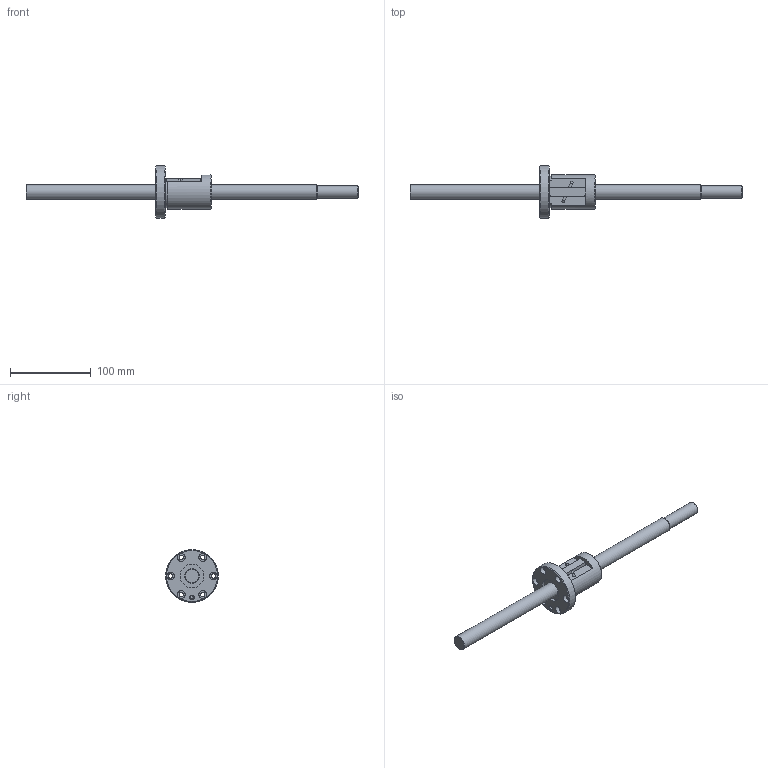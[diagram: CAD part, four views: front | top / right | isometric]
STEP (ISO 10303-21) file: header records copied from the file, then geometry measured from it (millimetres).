
FILE_DESCRIPTION(/* description */ ('STEP AP203'),/* implementation_level */ '2;1');
FILE_NAME(/* name */ 'BNF1810-2.5RRG1+410LC5A(00)',/* time_stamp */ '2024-07-15T07:41:18+02:00',/* author */ ('License CC BY-ND 4.0'),/* organization */ ('CADENAS'),/* preprocessor_version */ 'ST-DEVELOPER v19.3',/* originating_system */ 'PARTsolutions',/* authorisation */ ' ');
FILE_SCHEMA (('CONFIG_CONTROL_DESIGN'));
Length unit declared in the file: millimetre
Products named in the file (3): BNF1810-2.5RRG1+410LC5A(00); BNF1810-2.5RRG1+410LC5A(00)_shaft; BNF 1810-2.5RR_nut
Assembly tree (2 placements, depth 2):
  BNF1810-2.5RRG1+410LC5A(00)
    BNF1810-2.5RRG1+410LC5A(00)_shaft
    BNF 1810-2.5RR_nut
Bounding box: 410 x 65 x 65 mm (x, y, z)
Volume: 188524.6 mm3; surface area: 45748.1 mm2
Topology: 2 solids, 2 shells, 65 faces, 145 edges, 94 vertices
Faces by surface type: cylinder 30, plane 24, cone 9, torus 2
Full cylindrical faces by diameter (mm): 2.798 x2, 3 x2, 4.917 x1, 5.5 x6, 9.5 x6, 15.3 x1, 18 x2, 29 x2, 42 x1, 65 x1
Entity records: 1703 total; most frequent: CARTESIAN_POINT 298, DIRECTION 296, ORIENTED_EDGE 200, AXIS2_PLACEMENT_3D 136, EDGE_LOOP 130, FACE_BOUND 130, EDGE_CURVE 100, VERTEX_POINT 84
